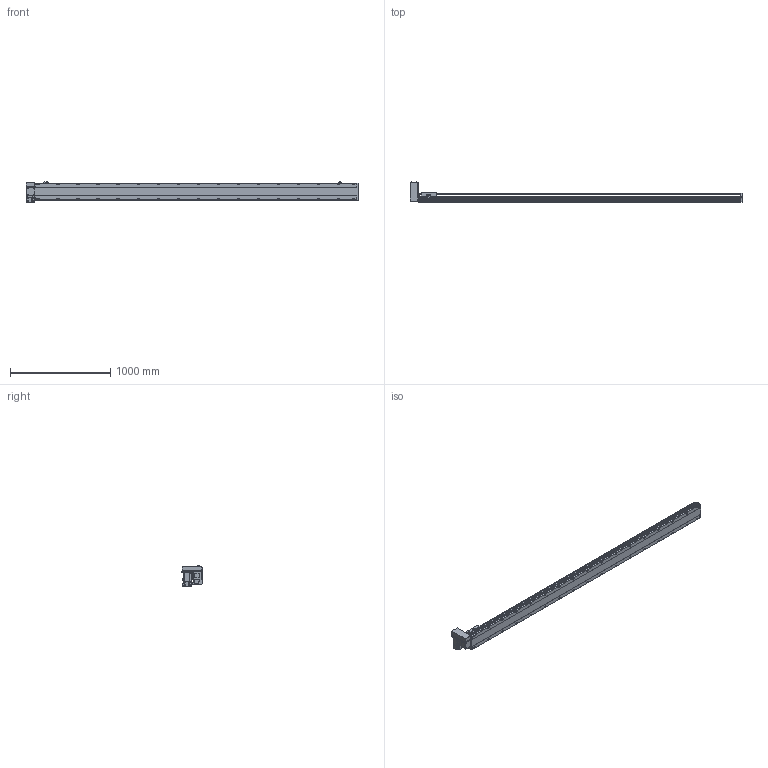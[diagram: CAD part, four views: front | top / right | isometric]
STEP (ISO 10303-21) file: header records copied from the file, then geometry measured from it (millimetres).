
FILE_DESCRIPTION( ( 'STEP AP214' ), '1' );
FILE_NAME( 'x:/temp/worker_5/temp/exporttempdir_3988_149_YnzrV/format_0/PBS170-P40-S2950-RU-T75-C1-N(0).stp', '2022-06-08T06:01:31', ( 'License CC BY-ND 4.0' ), ( 'CADENAS' ), ' ', 'PARTsolutions', ' ' );
FILE_SCHEMA( ( 'AUTOMOTIVE_DESIGN { 1 0 10303 214 1 1 1 1 }' ) );
Length unit declared in the file: millimetre
Products named in the file (7): PBS170-P40-S2950-RU-T75-C1-N(0); _PBS170-S2950()_body; _PBS170T-RU_motors; _T75-p1; _PBS170_sliser; _PBS170_plant; _PBS170_sensor
Assembly tree (8 placements, depth 2):
  PBS170-P40-S2950-RU-T75-C1-N(0)
    _PBS170-S2950()_body
    _PBS170T-RU_motors
    _T75-p1
    _PBS170_sliser
    _PBS170_plant
    _PBS170_sensor  x3
Bounding box: 3313 x 206 x 205.3 mm (x, y, z)
Volume: 24885339.1 mm3; surface area: 3116293.2 mm2
Topology: 8 solids, 8 shells, 1226 faces, 3235 edges, 2108 vertices
Faces by surface type: plane 741, cylinder 411, cone 64, sphere 8, torus 2
Full cylindrical faces by diameter (mm): 3.242 x4, 4 x2, 4.4 x4, 4.5 x6, 4.917 x4, 6 x9, 6.647 x42, 7 x2, 7.5 x4, 8 x8, 8.5 x34, 10 x4, 10.5 x34, 11 x2, 30 x2, 40 x1, 70 x1
Entity records: 45518 total; most frequent: CARTESIAN_POINT 7733, DIRECTION 5930, ORIENTED_EDGE 5568, EDGE_CURVE 2784, AXIS2_PLACEMENT_3D 2107, VERTEX_POINT 1946, LINE 1716, VECTOR 1716
